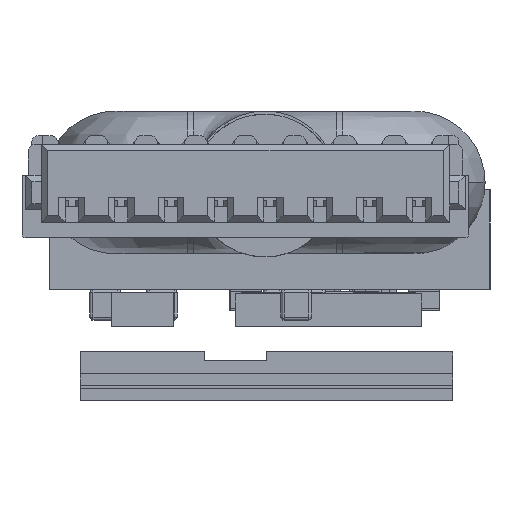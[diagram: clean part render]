
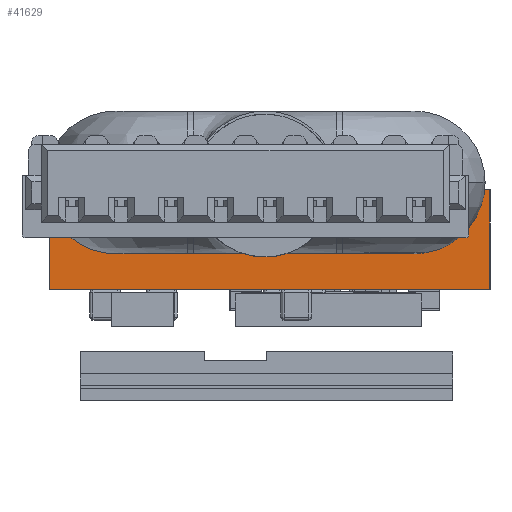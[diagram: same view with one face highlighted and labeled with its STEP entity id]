
A CAD part, left-side view. The second image highlights one B-rep face of the part: STEP entity #41629.
In plain terms, the highlighted planar face has unit normal (-1, 0, 0).
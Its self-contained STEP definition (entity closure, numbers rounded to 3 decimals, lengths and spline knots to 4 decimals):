
#41202=DIRECTION('',(0.,1.,0.));
#41203=VECTOR('',#41202,7.1);
#41204=CARTESIAN_POINT('',(1.,-3.6,0.));
#41205=LINE('',#41204,#41203);
#41209=DIRECTION('',(0.,0.,1.));
#41210=VECTOR('',#41209,1.6);
#41211=CARTESIAN_POINT('',(1.,3.5,0.));
#41212=LINE('',#41211,#41210);
#41216=DIRECTION('',(0.,-1.,0.));
#41217=VECTOR('',#41216,7.1);
#41218=CARTESIAN_POINT('',(1.,3.5,1.6));
#41219=LINE('',#41218,#41217);
#41230=DIRECTION('',(0.,0.,1.));
#41231=VECTOR('',#41230,1.6);
#41232=CARTESIAN_POINT('',(1.,-3.6,0.));
#41233=LINE('',#41232,#41231);
#41550=CARTESIAN_POINT('',(1.,-3.6,0.));
#41551=CARTESIAN_POINT('',(1.,-3.6,1.6));
#41552=VERTEX_POINT('',#41550);
#41553=VERTEX_POINT('',#41551);
#41554=CARTESIAN_POINT('',(1.,3.5,0.));
#41555=VERTEX_POINT('',#41554);
#41556=CARTESIAN_POINT('',(1.,3.5,1.6));
#41557=VERTEX_POINT('',#41556);
#41614=CARTESIAN_POINT('',(1.,-3.6,0.));
#41615=DIRECTION('',(-1.,0.,0.));
#41616=DIRECTION('',(0.,1.,0.));
#41617=AXIS2_PLACEMENT_3D('',#41614,#41615,#41616);
#41618=PLANE('',#41617);
#41620=ORIENTED_EDGE('',*,*,#41619,.F.);
#41622=ORIENTED_EDGE('',*,*,#41621,.T.);
#41624=ORIENTED_EDGE('',*,*,#41623,.T.);
#41626=ORIENTED_EDGE('',*,*,#41625,.T.);
#41627=EDGE_LOOP('',(#41620,#41622,#41624,#41626));
#41628=FACE_OUTER_BOUND('',#41627,.F.);
#41629=ADVANCED_FACE('',(#41628),#41618,.T.);
#41619=EDGE_CURVE('',#41552,#41553,#41233,.T.);
#41621=EDGE_CURVE('',#41552,#41555,#41205,.T.);
#41623=EDGE_CURVE('',#41555,#41557,#41212,.T.);
#41625=EDGE_CURVE('',#41557,#41553,#41219,.T.);
